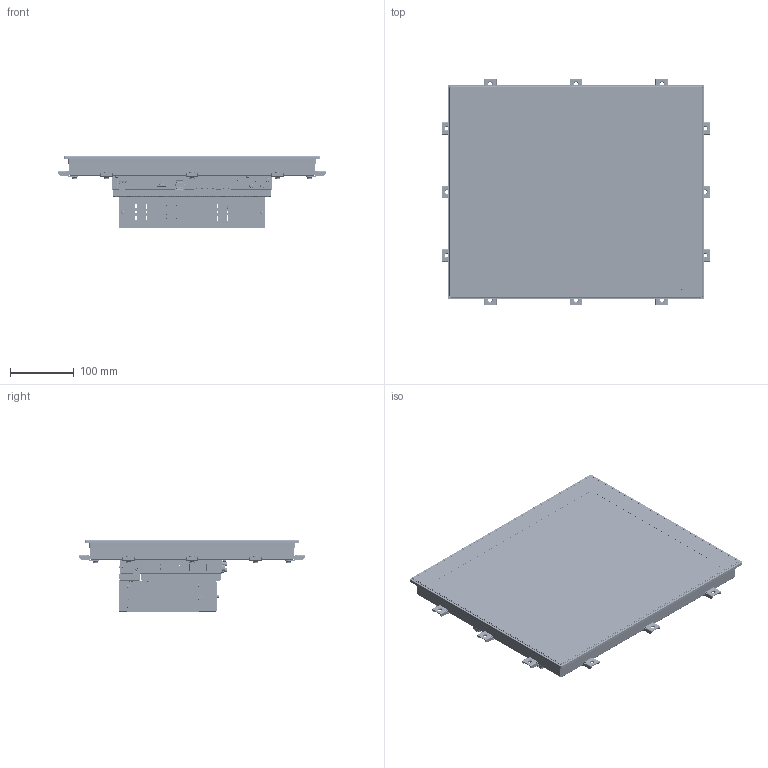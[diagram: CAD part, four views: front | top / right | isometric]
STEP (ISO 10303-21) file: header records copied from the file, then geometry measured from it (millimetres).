
FILE_DESCRIPTION((''),'2;1');
FILE_NAME('AP4C-170-Z','2026-06-02T12:50:11',('gijyu181'),(''),'CREO PARAMETRIC BY PTC INC, 2018050','CREO PARAMETRIC BY PTC INC, 2018050','');
FILE_SCHEMA(('CONFIG_CONTROL_DESIGN','SHAPE_APPEARANCE_LAYERS_GROUPS'));
Products named in the file (1): AP4C-170-Z
Bounding box: 422 x 356 x 114.47 mm (x, y, z)
Volume: 2118901.2 mm3; surface area: 1555340.7 mm2
Topology: 26 solids, 150 shells, 41409 faces, 119051 edges, 78568 vertices
Faces by surface type: plane 28525, cylinder 9811, extrusion 1462, torus 549, cone 498, bspline 378, sphere 174, revolution 12
Entity records: 1594226 total; most frequent: CARTESIAN_POINT 287114, ORIENTED_EDGE 236908, DIRECTION 216334, EDGE_CURVE 118955, VECTOR 92784, LINE 91322, VERTEX_POINT 78569, AXIS2_PLACEMENT_3D 61769
